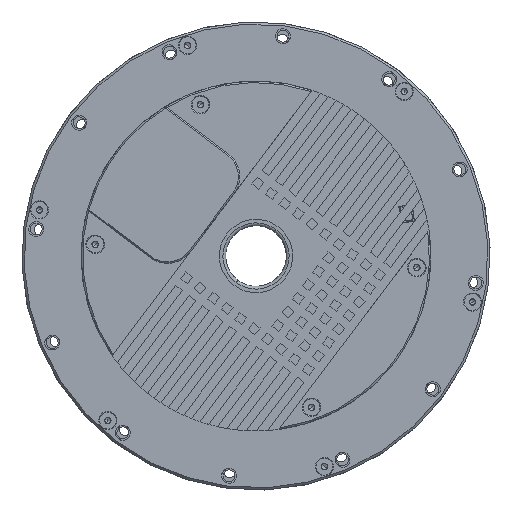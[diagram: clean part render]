
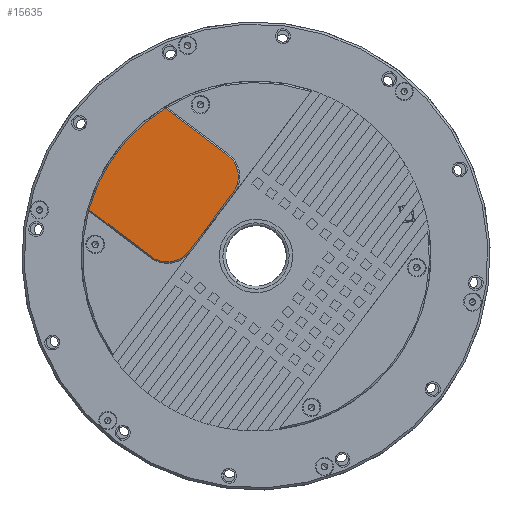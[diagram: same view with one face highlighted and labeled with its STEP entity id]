
A CAD part, front view. The second image highlights one B-rep face of the part: STEP entity #15635.
In plain terms, the highlighted planar face has unit normal (0, -1, 0).
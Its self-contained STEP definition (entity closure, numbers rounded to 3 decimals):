
#127 = CIRCLE ( 'NONE', #10577, 9.5 ) ;
#916 = VECTOR ( 'NONE', #15544, 1000. ) ;
#1303 = CARTESIAN_POINT ( 'NONE',  ( 13.541, 3., 17.969 ) ) ;
#1304 = EDGE_CURVE ( 'NONE', #40459, #40999, #33220, .T. ) ;
#2632 = VERTEX_POINT ( 'NONE', #34381 ) ;
#3182 = ORIENTED_EDGE ( 'NONE', *, *, #17583, .T. ) ;
#4218 = VECTOR ( 'NONE', #41264, 1000. ) ;
#7425 = CARTESIAN_POINT ( 'NONE',  ( -15.736, 3., 28.136 ) ) ;
#8317 = CIRCLE ( 'NONE', #45484, 61.5 ) ;
#8378 = CARTESIAN_POINT ( 'NONE',  ( 0., 3., 0. ) ) ;
#8828 = CARTESIAN_POINT ( 'NONE',  ( -8.149, 3., 22.419 ) ) ;
#9041 = EDGE_LOOP ( 'NONE', ( #29987, #3182, #32227, #9194, #36626, #36876 ) ) ;
#9194 = ORIENTED_EDGE ( 'NONE', *, *, #38841, .T. ) ;
#10065 = CARTESIAN_POINT ( 'NONE',  ( -32.17, 3., 52.415 ) ) ;
#10577 = AXIS2_PLACEMENT_3D ( 'NONE', #7425, #29285, #40227 ) ;
#10621 = EDGE_CURVE ( 'NONE', #45270, #40459, #127, .T. ) ;
#11424 = CARTESIAN_POINT ( 'NONE',  ( -15.973, 3., 12.036 ) ) ;
#11828 = VERTEX_POINT ( 'NONE', #45700 ) ;
#14680 = CIRCLE ( 'NONE', #40675, 9.5 ) ;
#14706 = DIRECTION ( 'NONE',  ( 0.602, 0., 0.799 ) ) ;
#15376 = FACE_OUTER_BOUND ( 'NONE', #9041, .T. ) ;
#15544 = DIRECTION ( 'NONE',  ( -0.799, 0., 0.602 ) ) ;
#15635 = ADVANCED_FACE ( 'NONE', ( #15376 ), #37002, .T. ) ;
#16891 = CARTESIAN_POINT ( 'NONE',  ( -37.101, 3., -0.216 ) ) ;
#17365 = EDGE_CURVE ( 'NONE', #23278, #11828, #14680, .T. ) ;
#17583 = EDGE_CURVE ( 'NONE', #2632, #23278, #30574, .T. ) ;
#19318 = DIRECTION ( 'NONE',  ( 0., -1., 0. ) ) ;
#19976 = DIRECTION ( 'NONE',  ( 0.602, 0., 0.799 ) ) ;
#21346 = VECTOR ( 'NONE', #14706, 1000. ) ;
#22351 = LINE ( 'NONE', #11424, #21346 ) ;
#23278 = VERTEX_POINT ( 'NONE', #16891 ) ;
#24298 = CARTESIAN_POINT ( 'NONE',  ( 0., 3., 0. ) ) ;
#29285 = DIRECTION ( 'NONE',  ( 0., -1., 0. ) ) ;
#29571 = DIRECTION ( 'NONE',  ( 0.602, 0., 0.799 ) ) ;
#29987 = ORIENTED_EDGE ( 'NONE', *, *, #33275, .T. ) ;
#30574 = LINE ( 'NONE', #37536, #4218 ) ;
#32227 = ORIENTED_EDGE ( 'NONE', *, *, #17365, .T. ) ;
#33220 = LINE ( 'NONE', #1303, #916 ) ;
#33275 = EDGE_CURVE ( 'NONE', #40999, #2632, #8317, .T. ) ;
#34381 = CARTESIAN_POINT ( 'NONE',  ( -59.252, 3., 16.476 ) ) ;
#35088 = DIRECTION ( 'NONE',  ( 0., -1., 0. ) ) ;
#36626 = ORIENTED_EDGE ( 'NONE', *, *, #10621, .T. ) ;
#36876 = ORIENTED_EDGE ( 'NONE', *, *, #1304, .T. ) ;
#37002 = PLANE ( 'NONE',  #37550 ) ;
#37536 = CARTESIAN_POINT ( 'NONE',  ( -13.541, 3., -17.969 ) ) ;
#37550 = AXIS2_PLACEMENT_3D ( 'NONE', #8378, #19318, #29571 ) ;
#38841 = EDGE_CURVE ( 'NONE', #11828, #45270, #22351, .T. ) ;
#38970 = DIRECTION ( 'NONE',  ( 0., -1., 0. ) ) ;
#40227 = DIRECTION ( 'NONE',  ( 0.602, 0., 0.799 ) ) ;
#40459 = VERTEX_POINT ( 'NONE', #44173 ) ;
#40675 = AXIS2_PLACEMENT_3D ( 'NONE', #41383, #35088, #19976 ) ;
#40999 = VERTEX_POINT ( 'NONE', #10065 ) ;
#41264 = DIRECTION ( 'NONE',  ( 0.799, 0., -0.602 ) ) ;
#41383 = CARTESIAN_POINT ( 'NONE',  ( -31.383, 3., 7.371 ) ) ;
#44173 = CARTESIAN_POINT ( 'NONE',  ( -10.019, 3., 35.723 ) ) ;
#45021 = DIRECTION ( 'NONE',  ( 0.602, 0., 0.799 ) ) ;
#45270 = VERTEX_POINT ( 'NONE', #8828 ) ;
#45484 = AXIS2_PLACEMENT_3D ( 'NONE', #24298, #38970, #45021 ) ;
#45700 = CARTESIAN_POINT ( 'NONE',  ( -23.796, 3., 1.654 ) ) ;
